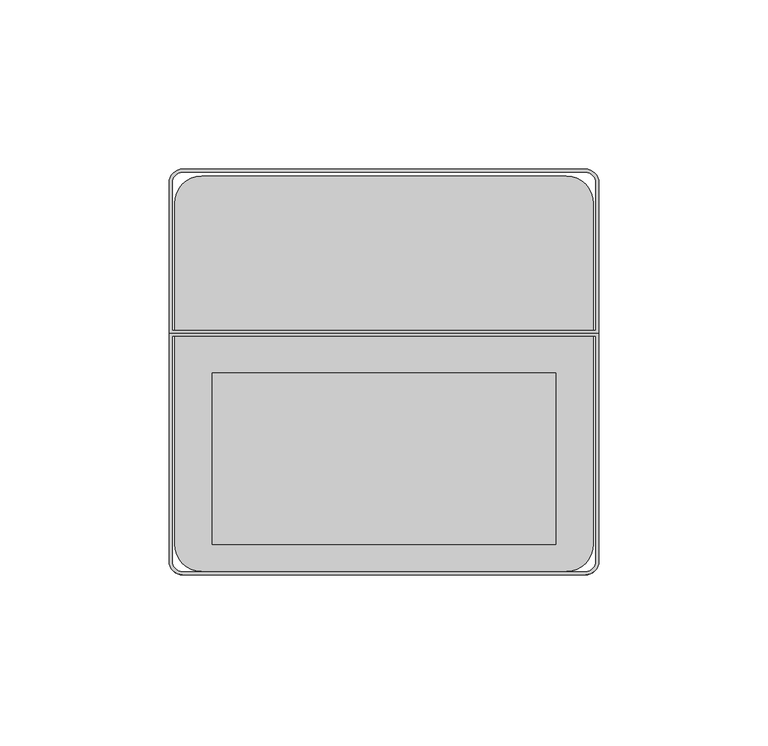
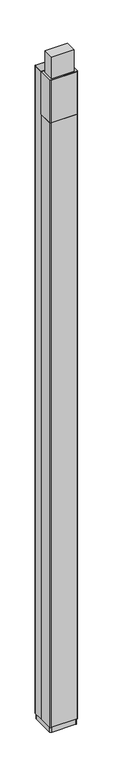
"""IFC4 building model written with IfcOpenShell, lengths in millimetres: proxy geometry, Jumbo_Tele_Pole-Wiremold-Blank_Aluminum_Pole : NP800C-10-2B."""

import ifcopenshell
import ifcopenshell.guid

model = None  # the IFC model being written
_history = None  # IfcOwnerHistory: only IFC2X3 demands one
_inside = {}  # id of a spatial element -> (the spatial element, [elements in it])
_under = {}  # id of a project, library or spatial element -> (it, [spatial elements below it])
_declared = {}  # id of a project -> (the project, [libraries it declares])
_typed = {}  # id of a type object -> (the type object, [elements of that type])
_made_of = {}  # id of a material, layer set ... -> (it, [elements and type objects made of it])


def new_model(schema):
    """Start an empty IFC model of exactly this schema.

    Asked for "IFC4X3", IfcOpenShell would pick the latest addendum, in which some entities
    have other attributes; the version numbers below select the first issue.
    IFC2X3 requires an IfcOwnerHistory on every rooted entity: one is made here for all.
    """
    global model, _history
    if schema == "IFC4X3":
        model = ifcopenshell.file(schema_version=(4, 3, 0, 0))
    else:
        model = ifcopenshell.file(schema=schema)
    _inside.clear()
    _under.clear()
    _declared.clear()
    _typed.clear()
    _made_of.clear()
    _history = None
    if model.schema == "IFC2X3":
        org = make("IfcOrganization", Name="unknown")
        user = make(
            "IfcPersonAndOrganization",
            ThePerson=make("IfcPerson", FamilyName="unknown"),
            TheOrganization=org,
        )
        app = make(
            "IfcApplication",
            ApplicationDeveloper=org,
            Version="unknown",
            ApplicationFullName="unknown",
            ApplicationIdentifier="unknown",
        )
        _history = make(
            "IfcOwnerHistory",
            OwningUser=user,
            OwningApplication=app,
            ChangeAction="ADDED",
            CreationDate=0,
        )
    return model


def make(cls, **values):
    """One entity of the class cls with the attributes given. An attribute that is None is left unset."""
    return model.create_entity(
        cls, **{name: value for name, value in values.items() if value is not None}
    )


def rooted(cls, **values):
    """An entity with a GlobalId (a new one), such as an element, a storey or a relation."""
    return make(cls, GlobalId=ifcopenshell.guid.new(), OwnerHistory=_history, **values)


def si_unit(unit_type, name, prefix=None):
    """IfcSIUnit, for example si_unit("LENGTHUNIT", "METRE", prefix="MILLI")."""
    return make("IfcSIUnit", UnitType=unit_type, Prefix=prefix, Name=name)


def assignment(units):
    """IfcUnitAssignment: the units of a project."""
    return None if units is None else make("IfcUnitAssignment", Units=units)


def point(xyz):
    """IfcCartesianPoint."""
    return None if xyz is None else make("IfcCartesianPoint", Coordinates=xyz)


def direction(xyz):
    """IfcDirection."""
    return None if xyz is None else make("IfcDirection", DirectionRatios=xyz)


def frame(location, z_axis=None, x_axis=None):
    """IfcAxis2Placement3D, a coordinate frame: its origin and axes. An axis left out is left unset."""
    return make(
        "IfcAxis2Placement3D",
        Location=point(location),
        Axis=direction(z_axis),
        RefDirection=direction(x_axis),
    )


def frame_2d(location, x_axis=None):
    """IfcAxis2Placement2D, a coordinate frame in the plane: its origin and x axis."""
    return make(
        "IfcAxis2Placement2D", Location=point(location), RefDirection=direction(x_axis)
    )


def origin():
    """The frame at (0, 0, 0) with its axes left unset."""
    return frame((0.0, 0.0, 0.0))


def origin_with_axes():
    """The frame at (0, 0, 0) with the z axis (0, 0, 1) and the x axis (1, 0, 0) written out."""
    return frame((0.0, 0.0, 0.0), z_axis=(0.0, 0.0, 1.0), x_axis=(1.0, 0.0, 0.0))


def place(relative_to, where):
    """IfcLocalPlacement: puts the frame where relative to a parent placement (None: the world)."""
    return make(
        "IfcLocalPlacement", PlacementRelTo=relative_to, RelativePlacement=where
    )


def context(
    kind, dimensions, precision=None, world=None, true_north=None, identifier=None
):
    """IfcGeometricRepresentationContext, for example the 3D "Model" context."""
    return make(
        "IfcGeometricRepresentationContext",
        ContextIdentifier=identifier,
        ContextType=kind,
        CoordinateSpaceDimension=dimensions,
        Precision=precision,
        WorldCoordinateSystem=world,
        TrueNorth=true_north,
    )


def project(units=None, contexts=None):
    """IfcProject with its units and contexts."""
    return rooted(
        "IfcProject",
        Name="project",
        RepresentationContexts=contexts,
        UnitsInContext=assignment(units),
    )


def spatial(cls, under=None, at=None, **own):
    """A site, building, storey or space (cls), placed at a placement, below another one or the project."""
    s = rooted(cls, ObjectPlacement=at, **own)
    if under is not None:
        _under.setdefault(under.id(), (under, []))[1].append(s)
    return s


def polyline(points):
    """IfcPolyline through the points."""
    return make("IfcPolyline", Points=[point(p) for p in points])


def circle_curve(where, radius):
    """IfcCircle in the frame where."""
    return make("IfcCircle", Position=where, Radius=radius)


def trimmed(basis, trim1, trim2, sense, master):
    """IfcTrimmedCurve: the piece of a basis curve between two trims."""
    return make(
        "IfcTrimmedCurve",
        BasisCurve=basis,
        Trim1=trim1,
        Trim2=trim2,
        SenseAgreement=sense,
        MasterRepresentation=master,
    )


def segment(curve, same_sense, transition):
    """IfcCompositeCurveSegment."""
    return make(
        "IfcCompositeCurveSegment",
        Transition=transition,
        SameSense=same_sense,
        ParentCurve=curve,
    )


def composite_curve(segments, self_intersect=None):
    """IfcCompositeCurve: segments joined end to end."""
    return make("IfcCompositeCurve", Segments=segments, SelfIntersect=self_intersect)


def outline(outer, holes=None, kind="AREA"):
    """IfcArbitraryClosedProfileDef: a profile drawn as a closed curve; with holes, ...WithVoids."""
    if holes is None:
        return make("IfcArbitraryClosedProfileDef", ProfileType=kind, OuterCurve=outer)
    return make(
        "IfcArbitraryProfileDefWithVoids",
        ProfileType=kind,
        OuterCurve=outer,
        InnerCurves=holes,
    )


def extrude(swept, where, along, depth):
    """IfcExtrudedAreaSolid: the profile swept, set in the frame where, extruded along a direction by depth."""
    return make(
        "IfcExtrudedAreaSolid",
        SweptArea=swept,
        Position=where,
        ExtrudedDirection=direction(along),
        Depth=depth,
    )


def shape(context_of_items, identifier, shape_type, items):
    """IfcShapeRepresentation: the items that make up one representation, for example the "Body"."""
    return make(
        "IfcShapeRepresentation",
        ContextOfItems=context_of_items,
        RepresentationIdentifier=identifier,
        RepresentationType=shape_type,
        Items=items,
    )


def source(mapping_origin, context_of_items, identifier, shape_type, items):
    """IfcRepresentationMap: a shape defined once, which mapped items show again and again."""
    return make(
        "IfcRepresentationMap",
        MappingOrigin=mapping_origin,
        MappedRepresentation=shape(context_of_items, identifier, shape_type, items),
    )


def transform(
    local_origin,
    x_axis=None,
    y_axis=None,
    z_axis=None,
    scale=None,
    scale2=None,
    scale3=None,
    uniform=True,
):
    """IfcCartesianTransformationOperator3D, or its non-uniform kind. x_axis, y_axis, z_axis: its Axis1, 2, 3."""
    if uniform:
        return make(
            "IfcCartesianTransformationOperator3D",
            Axis1=direction(x_axis),
            Axis2=direction(y_axis),
            LocalOrigin=point(local_origin),
            Scale=scale,
            Axis3=direction(z_axis),
        )
    return make(
        "IfcCartesianTransformationOperator3DnonUniform",
        Axis1=direction(x_axis),
        Axis2=direction(y_axis),
        LocalOrigin=point(local_origin),
        Scale=scale,
        Axis3=direction(z_axis),
        Scale2=scale2,
        Scale3=scale3,
    )


def mapped(mapping_source, mapping_target):
    """IfcMappedItem: shows the shape of a source again, moved by a transform."""
    return make(
        "IfcMappedItem", MappingSource=mapping_source, MappingTarget=mapping_target
    )


def made_of(thing, what):
    """Note that an element or type object is made of a material, layer set ...; save() writes the relation."""
    if what is not None:
        _made_of.setdefault(what.id(), (what, []))[1].append(thing)
    return thing


def element(
    cls,
    number,
    at=None,
    inside=None,
    cuts=None,
    type_object=None,
    material=None,
    context=None,
    identifier="Body",
    shape_type=None,
    held_by="IfcProductDefinitionShape",
    body=None,
    shapes=None,
    **own,
):
    """One element of the class cls, such as IfcWall. Its Tag is "e" and its number.

    at: its placement. inside: the storey or other place that contains it. cuts: it is an
    opening in that element (IfcRelVoidsElement). A single representation is given by context,
    identifier, shape_type and body (its items); several are given by shapes. held_by: the class
    of the entity that holds the representations. save() writes the other relations.
    """
    e = rooted(cls, Tag="e%d" % number, ObjectPlacement=at, **own)
    if body is not None:
        shapes = [shape(context, identifier, shape_type, body)]
    if shapes is not None:
        e.Representation = make(held_by, Representations=shapes)
    if inside is not None:
        _inside.setdefault(inside.id(), (inside, []))[1].append(e)
    if cuts is not None:
        rooted(
            "IfcRelVoidsElement", RelatingBuildingElement=cuts, RelatedOpeningElement=e
        )
    if type_object is not None:
        _typed.setdefault(type_object.id(), (type_object, []))[1].append(e)
    return made_of(e, material)


def aggregate(whole, parts):
    """IfcRelAggregates: a whole, such as a stair, and the parts it consists of."""
    return rooted("IfcRelAggregates", RelatingObject=whole, RelatedObjects=parts)


def save(model, path):
    """Write the relations noted so far, then the file.

    IfcRelAggregates (storeys below a building ...), IfcRelContainedInSpatialStructure (elements
    in a storey), IfcRelDefinesByType, IfcRelAssociatesMaterial and IfcRelDeclares: one each for
    every whole, place, type object, material and project.
    """
    for whole, parts in _under.values():
        aggregate(whole, parts)
    for where, things in _inside.values():
        rooted(
            "IfcRelContainedInSpatialStructure",
            RelatedElements=things,
            RelatingStructure=where,
        )
    for kind, things in _typed.values():
        rooted("IfcRelDefinesByType", RelatedObjects=things, RelatingType=kind)
    for what, things in _made_of.values():
        rooted("IfcRelAssociatesMaterial", RelatedObjects=things, RelatingMaterial=what)
    for by, libraries in _declared.values():
        rooted("IfcRelDeclares", RelatingContext=by, RelatedDefinitions=libraries)
    model.write(path)


def electrical_fixtures_92e26248(model_context):
    return source(origin(), model_context, "Body", "SweptSolid", [
        extrude(outline(polyline([(50.8, 7.35), (-50.8, 7.35), (-50.8, 58.15), (50.8, 58.15), (50.8, 7.35)])), frame((0.0, 0.0, 3098.8), z_axis=(0.0, 0.0, 1.0), x_axis=(1.0, 0.0, 0.0)), (0.0, 0.0, 1.0), 101.6),
        extrude(outline(composite_curve([segment(polyline([(-63.5, 69.85), (63.5, 69.85), (63.5, 2.4125)]), True, "CONTINUOUS"), segment(trimmed(circle_curve(frame_2d((59.5, 2.4125)), 4.0), [point((63.5, 2.4125))], [point((59.5, -1.5875))], False, "CARTESIAN"), True, "CONTINUOUS"), segment(polyline([(59.5, -1.5875), (-59.5, -1.5875)]), True, "CONTINUOUS"), segment(trimmed(circle_curve(frame_2d((-59.5, 2.4125)), 4.0), [point((-59.5, -1.5875))], [point((-63.5, 2.4125))], False, "CARTESIAN"), True, "CONTINUOUS"), segment(polyline([(-63.5, 2.4125), (-63.5, 69.85)]), True, "CONTINUOUS")], self_intersect=False), holes=[composite_curve([segment(trimmed(circle_curve(frame_2d((-59.5, 2.4125)), 3.0), [point((-62.5, 2.4125))], [point((-59.5, -0.5875))], True, "CARTESIAN"), True, "CONTINUOUS"), segment(polyline([(-59.5, -0.5875), (59.5, -0.5875)]), True, "CONTINUOUS"), segment(trimmed(circle_curve(frame_2d((59.5, 2.4125)), 3.0), [point((59.5, -0.5875))], [point((62.5, 2.4125))], True, "CARTESIAN"), True, "CONTINUOUS"), segment(polyline([(62.5, 2.4125), (62.5, 68.85), (-62.5, 68.85), (-62.5, 2.4125)]), True, "CONTINUOUS")], self_intersect=False)]), frame((0.0, 0.0, 2895.6), z_axis=(0.0, 0.0, 1.0), x_axis=(1.0, 0.0, 0.0)), (0.0, 0.0, 1.0), 203.2),
        extrude(outline(composite_curve([segment(trimmed(circle_curve(frame_2d((59.5, 114.4125)), 4.0), [point((59.5, 118.4125))], [point((63.5, 114.4125))], False, "CARTESIAN"), True, "CONTINUOUS"), segment(polyline([(63.5, 114.4125), (63.5, 69.85), (-63.5, 69.85), (-63.5, 114.4125)]), True, "CONTINUOUS"), segment(trimmed(circle_curve(frame_2d((-59.5, 114.4125)), 4.0), [point((-63.5, 114.4125))], [point((-59.5, 118.4125))], False, "CARTESIAN"), True, "CONTINUOUS"), segment(polyline([(-59.5, 118.4125), (59.5, 118.4125)]), True, "CONTINUOUS")], self_intersect=False), holes=[composite_curve([segment(polyline([(62.5, 70.85), (62.5, 114.4125)]), True, "CONTINUOUS"), segment(trimmed(circle_curve(frame_2d((59.5, 114.4125)), 3.0), [point((62.5, 114.4125))], [point((59.5, 117.4125))], True, "CARTESIAN"), True, "CONTINUOUS"), segment(polyline([(59.5, 117.4125), (-59.5, 117.4125)]), True, "CONTINUOUS"), segment(trimmed(circle_curve(frame_2d((-59.5, 114.4125)), 3.0), [point((-59.5, 117.4125))], [point((-62.5, 114.4125))], True, "CARTESIAN"), True, "CONTINUOUS"), segment(polyline([(-62.5, 114.4125), (-62.5, 70.85), (62.5, 70.85)]), True, "CONTINUOUS")], self_intersect=False)]), origin_with_axes(), (0.0, 0.0, 1.0), 3098.8),
        extrude(outline(composite_curve([segment(polyline([(63.5, 69.85), (63.5, 2.4125)]), True, "CONTINUOUS"), segment(trimmed(circle_curve(frame_2d((59.5, 2.4125)), 4.0), [point((63.5, 2.4125))], [point((59.5, -1.5875))], False, "CARTESIAN"), True, "CONTINUOUS"), segment(polyline([(59.5, -1.5875), (-59.5, -1.5875)]), True, "CONTINUOUS"), segment(trimmed(circle_curve(frame_2d((-59.5, 2.4125)), 4.0), [point((-59.5, -1.5875))], [point((-63.5, 2.4125))], False, "CARTESIAN"), True, "CONTINUOUS"), segment(polyline([(-63.5, 2.4125), (-63.5, 69.85), (63.5, 69.85)]), True, "CONTINUOUS")], self_intersect=False), holes=[composite_curve([segment(polyline([(-62.5, 69.05), (-62.5, 2.4125)]), True, "CONTINUOUS"), segment(trimmed(circle_curve(frame_2d((-59.5, 2.4125)), 3.0), [point((-62.5, 2.4125))], [point((-59.5, -0.5875))], True, "CARTESIAN"), True, "CONTINUOUS"), segment(polyline([(-59.5, -0.5875), (59.5, -0.5875)]), True, "CONTINUOUS"), segment(trimmed(circle_curve(frame_2d((59.5, 2.4125)), 3.0), [point((59.5, -0.5875))], [point((62.5, 2.4125))], True, "CARTESIAN"), True, "CONTINUOUS"), segment(polyline([(62.5, 2.4125), (62.5, 69.05), (-62.5, 69.05)]), True, "CONTINUOUS")], self_intersect=False)]), origin_with_axes(), (0.0, 0.0, 1.0), 2895.6),
        extrude(outline(composite_curve([segment(trimmed(circle_curve(frame_2d((53.9125, 108.825)), 8.0), [point((53.9125, 116.825))], [point((61.9125, 108.825))], False, "CARTESIAN"), True, "CONTINUOUS"), segment(polyline([(61.9125, 108.825), (61.9125, 8.0)]), True, "CONTINUOUS"), segment(trimmed(circle_curve(frame_2d((53.9125, 8.0)), 8.0), [point((61.9125, 8.0))], [point((53.9125, 0.0))], False, "CARTESIAN"), True, "CONTINUOUS"), segment(polyline([(53.9125, 0.0), (-53.9125, 0.0)]), True, "CONTINUOUS"), segment(trimmed(circle_curve(frame_2d((-53.9125, 8.0)), 8.0), [point((-53.9125, 0.0))], [point((-61.9125, 8.0))], False, "CARTESIAN"), True, "CONTINUOUS"), segment(polyline([(-61.9125, 8.0), (-61.9125, 108.825)]), True, "CONTINUOUS"), segment(trimmed(circle_curve(frame_2d((-53.9125, 108.825)), 8.0), [point((-61.9125, 108.825))], [point((-53.9125, 116.825))], False, "CARTESIAN"), True, "CONTINUOUS"), segment(polyline([(-53.9125, 116.825), (53.9125, 116.825)]), True, "CONTINUOUS")], self_intersect=False)), frame((0.0, 0.0, -25.4), z_axis=(0.0, 0.0, 1.0), x_axis=(1.0, 0.0, 0.0)), (0.0, 0.0, 1.0), 25.4),
    ])


if __name__ == "__main__":
    model = new_model("IFC4")
    model_context = context("Model", 3, world=origin())
    ifc_project = project(units=[si_unit("LENGTHUNIT", "METRE", prefix="MILLI")], contexts=[model_context])
    site = spatial("IfcSite", under=ifc_project)
    building = spatial("IfcBuilding", under=site)
    placement = place(None, origin())
    electrical_fixtures_shape = electrical_fixtures_92e26248(model_context)
    element("IfcBuildingElementProxy", 1, Name="Jumbo_Tele_Pole-Wiremold-Blank_Aluminum_Pole : NP800C-10-2B", ObjectType="Jumbo_Tele_Pole-Wiremold-Blank_Aluminum_Pole : NP800C-10-2B", at=placement, inside=building, context=model_context, shape_type="MappedRepresentation", body=[
        mapped(electrical_fixtures_shape, transform((0.0, 0.0, 0.0), x_axis=(1.0, 0.0, 0.0), y_axis=(0.0, 1.0, 0.0), z_axis=(0.0, 0.0, 1.0))),
    ])
    save(model, "model.ifc")
